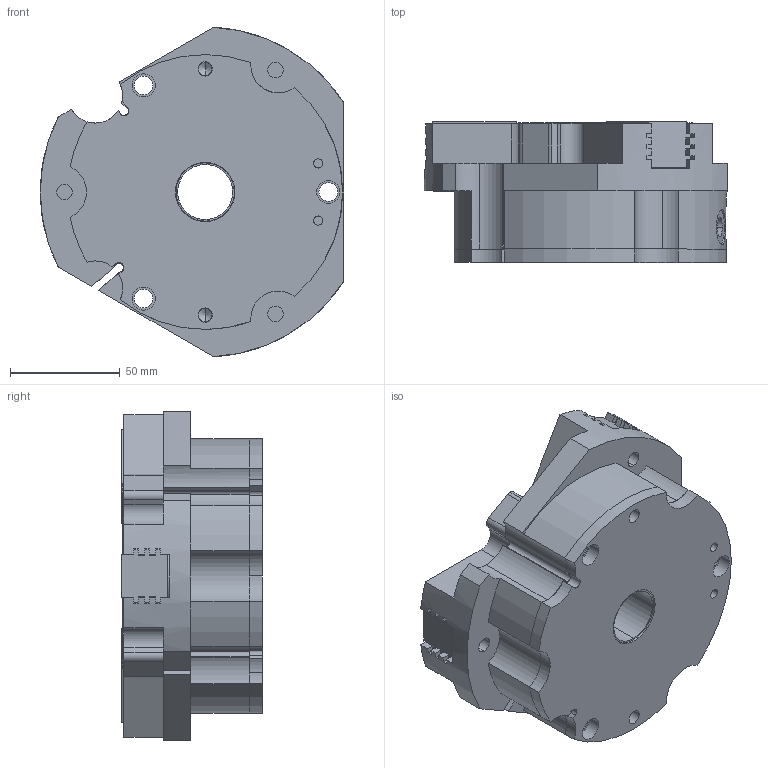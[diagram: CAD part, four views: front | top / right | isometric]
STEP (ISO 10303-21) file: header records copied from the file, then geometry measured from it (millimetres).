
FILE_DESCRIPTION (( 'STEP AP214' ), '1' );
FILE_NAME ('THB-125A-2.STEP', '2020-09-10T10:26:37', ( '' ), ( '' ), 'SwSTEP 2.0', 'SolidWorks 2016', '' );
FILE_SCHEMA (( 'AUTOMOTIVE_DESIGN' ));
Length unit declared in the file: millimetre
Products named in the file (6): THB-125A-2; THB-125A-2-04; THB-125A-2-02; THB-125A-2-05; THB-125A-2-03; THB-125A-2-01
Assembly tree (7 placements, depth 2):
  THB-125A-2
    THB-125A-2-01
    THB-125A-2-02  x3
    THB-125A-2-03
    THB-125A-2-04
    THB-125A-2-05
Bounding box: 138 x 64 x 149.81 mm (x, y, z)
Volume: 655356.6 mm3; surface area: 145088.9 mm2
Topology: 7 solids, 8 shells, 507 faces, 1389 edges, 896 vertices
Faces by surface type: plane 256, cylinder 189, cone 62
Entity records: 13709 total; most frequent: CARTESIAN_POINT 2394, DIRECTION 2385, ORIENTED_EDGE 2186, EDGE_CURVE 1093, AXIS2_PLACEMENT_3D 883, VERTEX_POINT 720, VECTOR 619, LINE 619
